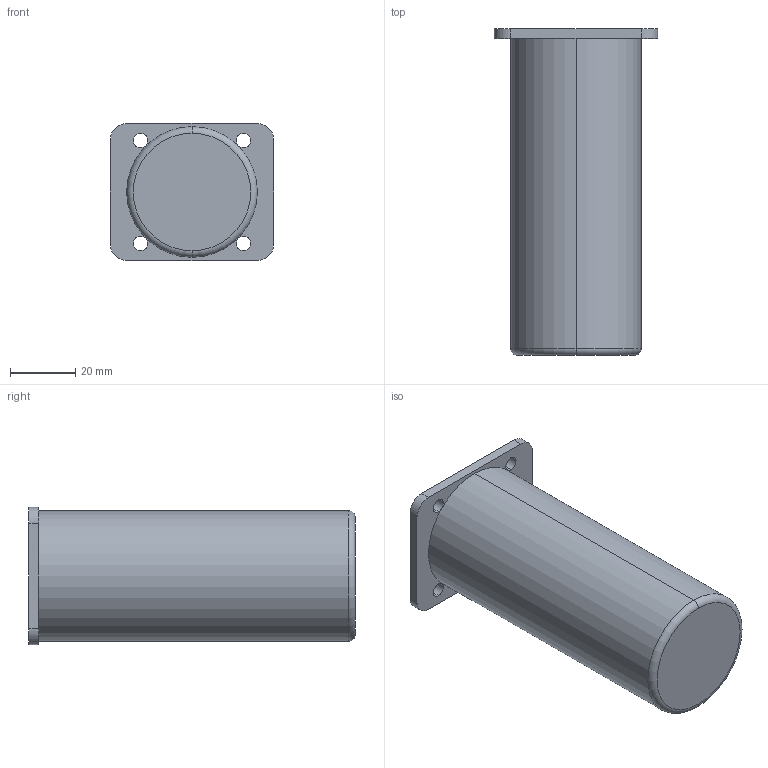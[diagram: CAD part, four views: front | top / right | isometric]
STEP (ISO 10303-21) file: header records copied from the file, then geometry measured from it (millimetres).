
FILE_DESCRIPTION (( 'STEP AP203' ), '1' );
FILE_NAME ('Nábytková noha kulatá 40mm, h= 100mm_87011 a 465227_3D.STEP', '2022-03-16T11:47:49', ( '' ), ( '' ), 'SwSTEP 2.0', 'SolidWorks 2019', '' );
FILE_SCHEMA (( 'CONFIG_CONTROL_DESIGN' ));
Length unit declared in the file: millimetre
Products named in the file (3): Nábytková noha kulatá 40mm, h= 100mm_87011 a 465227_3D; zdvih nohy 40 a 60; noha kulatá 40-100mm
Assembly tree (2 placements, depth 2):
  Nábytková noha kulatá 40mm, h= 100mm_87011 a 465227_3D
    noha kulatá 40-100mm
    zdvih nohy 40 a 60
Bounding box: 50 x 100 x 42 mm (x, y, z)
Volume: 44412 mm3; surface area: 36142.8 mm2
Topology: 2 solids, 2 shells, 57 faces, 130 edges, 86 vertices
Faces by surface type: cylinder 32, plane 23, torus 2
Entity records: 1961 total; most frequent: DIRECTION 322, CARTESIAN_POINT 278, ORIENTED_EDGE 260, EDGE_CURVE 130, AXIS2_PLACEMENT_3D 130, VERTEX_POINT 86, EDGE_LOOP 76, CIRCLE 68
